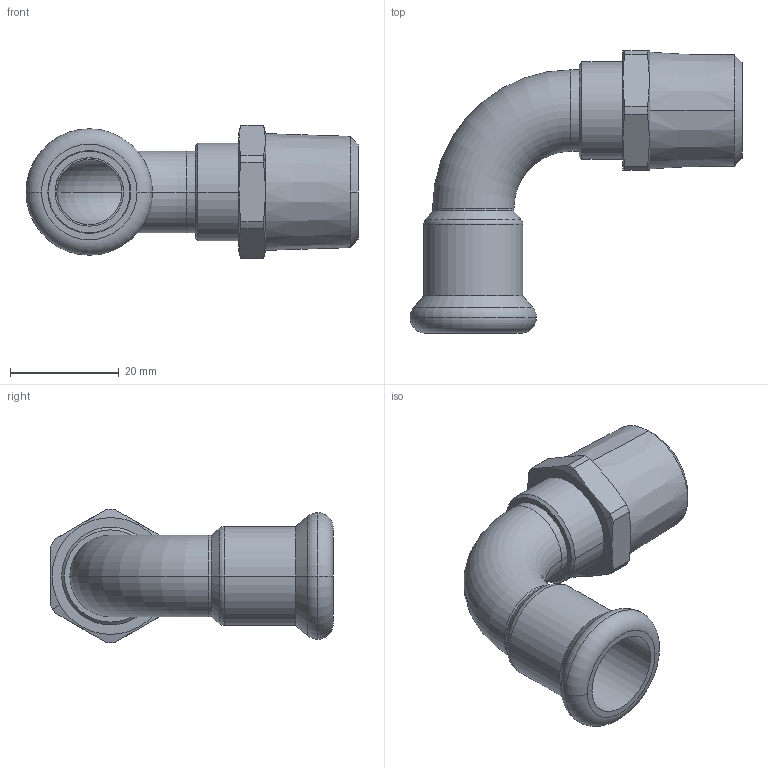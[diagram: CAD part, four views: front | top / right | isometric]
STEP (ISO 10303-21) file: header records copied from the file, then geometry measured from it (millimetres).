
FILE_DESCRIPTION(('CoCreate Modeling STEP Export'),'2;1');
FILE_NAME('C1430 15xR1-2.stp','2014-11-12T16:14:01',(''),(''),'CoCreate Modeling STEP processor for AP214 (Solid Model)','CoCreate Modeling 17.00A 17-Jun-2010 (C) Parametric Technology GmbH','');
FILE_SCHEMA(('AUTOMOTIVE_DESIGN { 1 0 10303 214 1 1 1 1 }'));
Length unit declared in the file: millimetre
Products named in the file (2): C1430_15xR1-2
Assembly tree (1 placements, depth 2):
  C1430_15xR1-2
    C1430_15xR1-2
Bounding box: 61.15 x 52 x 24.6 mm (x, y, z)
Volume: 9818.5 mm3; surface area: 9008.2 mm2
Topology: 1 solids, 1 shells, 64 faces, 148 edges, 92 vertices
Faces by surface type: cylinder 26, plane 14, cone 14, torus 10
Entity records: 2130 total; most frequent: CARTESIAN_POINT 817, ORIENTED_EDGE 296, DIRECTION 228, EDGE_CURVE 148, VERTEX_POINT 92, AXIS2_PLACEMENT_3D 91, EDGE_LOOP 72, FACE_OUTER_BOUND 64
